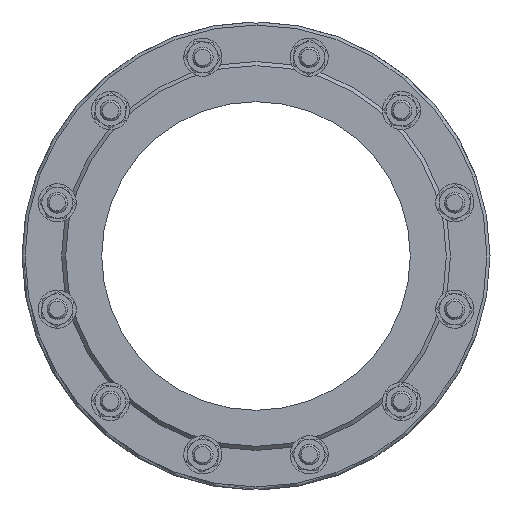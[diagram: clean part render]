
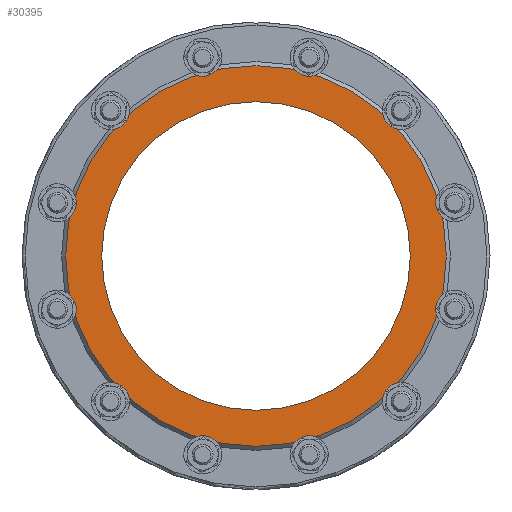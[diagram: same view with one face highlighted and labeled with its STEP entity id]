
A CAD part, left-side view. The second image highlights one B-rep face of the part: STEP entity #30395.
In plain terms, the highlighted planar face has unit normal (-1, 0, 0).
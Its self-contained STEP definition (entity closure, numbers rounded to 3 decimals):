
#1669 = CARTESIAN_POINT ( 'NONE',  ( -13., 0., -185. ) ) ;
#1937 = EDGE_LOOP ( 'NONE', ( #39073 ) ) ;
#3880 = DIRECTION ( 'NONE',  ( -1., 0., 0. ) ) ;
#9779 = CIRCLE ( 'NONE', #19409, 150. ) ;
#10319 = AXIS2_PLACEMENT_3D ( 'NONE', #36647, #18529, #22914 ) ;
#10894 = EDGE_CURVE ( 'NONE', #33446, #33446, #26996, .T. ) ;
#11287 = CARTESIAN_POINT ( 'NONE',  ( -13., 0., 0. ) ) ;
#11745 = DIRECTION ( 'NONE',  ( 0., 0., -1. ) ) ;
#15968 = PLANE ( 'NONE',  #10319 ) ;
#18529 = DIRECTION ( 'NONE',  ( 1., 0., 0. ) ) ;
#19409 = AXIS2_PLACEMENT_3D ( 'NONE', #20122, #34728, #38007 ) ;
#20122 = CARTESIAN_POINT ( 'NONE',  ( -13., 0., 0. ) ) ;
#21447 = VERTEX_POINT ( 'NONE', #25647 ) ;
#22914 = DIRECTION ( 'NONE',  ( 0., 0., 1. ) ) ;
#23028 = ORIENTED_EDGE ( 'NONE', *, *, #35158, .F. ) ;
#25647 = CARTESIAN_POINT ( 'NONE',  ( -13., 0., 150. ) ) ;
#26996 = CIRCLE ( 'NONE', #37372, 185. ) ;
#30139 = FACE_BOUND ( 'NONE', #31850, .T. ) ;
#30395 = ADVANCED_FACE ( 'NONE', ( #30139, #39882 ), #15968, .F. ) ;
#31850 = EDGE_LOOP ( 'NONE', ( #23028 ) ) ;
#33446 = VERTEX_POINT ( 'NONE', #1669 ) ;
#34728 = DIRECTION ( 'NONE',  ( -1., 0., 0. ) ) ;
#35158 = EDGE_CURVE ( 'NONE', #21447, #21447, #9779, .T. ) ;
#36647 = CARTESIAN_POINT ( 'NONE',  ( -13., -150., 0. ) ) ;
#37372 = AXIS2_PLACEMENT_3D ( 'NONE', #11287, #3880, #11745 ) ;
#38007 = DIRECTION ( 'NONE',  ( 0., 0., 1. ) ) ;
#39073 = ORIENTED_EDGE ( 'NONE', *, *, #10894, .T. ) ;
#39882 = FACE_OUTER_BOUND ( 'NONE', #1937, .T. ) ;
